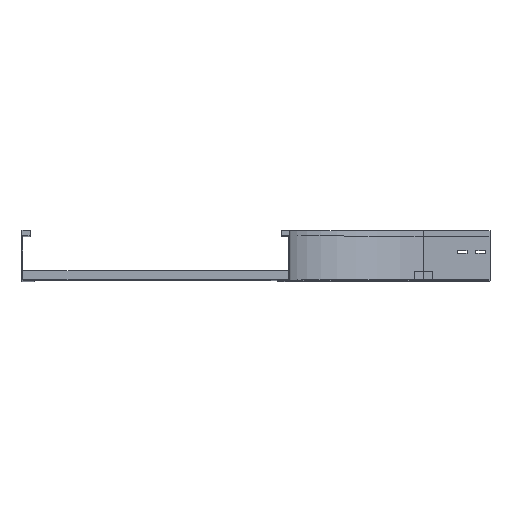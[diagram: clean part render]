
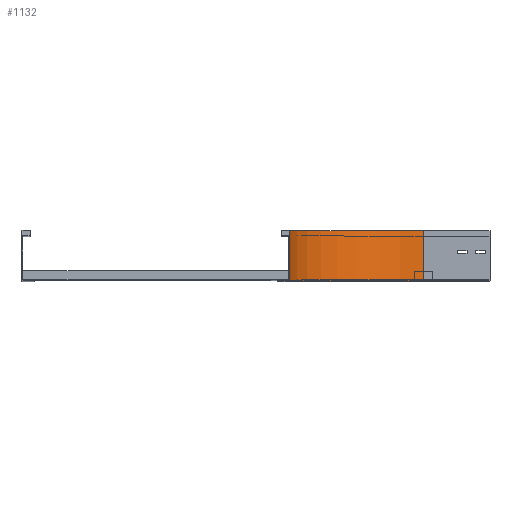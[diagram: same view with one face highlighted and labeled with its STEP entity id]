
A CAD part, top view. The second image highlights one B-rep face of the part: STEP entity #1132.
In plain terms, the highlighted cylindrical face has radius 300 mm (diameter 600 mm), a partial arc.
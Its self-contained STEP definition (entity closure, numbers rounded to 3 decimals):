
#57 = CARTESIAN_POINT ( 'NONE',  ( 0., 112.5, -150. ) ) ;
#108 = DIRECTION ( 'NONE',  ( 0., 1., 0. ) ) ;
#165 = EDGE_LOOP ( 'NONE', ( #1933, #1600, #2032, #1835 ) ) ;
#473 = CARTESIAN_POINT ( 'NONE',  ( 300., 112.5, -450. ) ) ;
#499 = EDGE_CURVE ( 'NONE', #3172, #3463, #886, .T. ) ;
#858 = DIRECTION ( 'NONE',  ( 0., -1., 0. ) ) ;
#886 = CIRCLE ( 'NONE', #3133, 300. ) ;
#924 = CARTESIAN_POINT ( 'NONE',  ( 300., 0., -450. ) ) ;
#1041 = FACE_OUTER_BOUND ( 'NONE', #165, .T. ) ;
#1104 = CIRCLE ( 'NONE', #3787, 300. ) ;
#1132 = ADVANCED_FACE ( 'NONE', ( #1041 ), #2559, .F. ) ;
#1242 = CARTESIAN_POINT ( 'NONE',  ( 0., 0., -150. ) ) ;
#1346 = DIRECTION ( 'NONE',  ( 0., -1., 0. ) ) ;
#1395 = CARTESIAN_POINT ( 'NONE',  ( 300., 0., -450. ) ) ;
#1600 = ORIENTED_EDGE ( 'NONE', *, *, #2863, .F. ) ;
#1831 = VECTOR ( 'NONE', #3063, 1000. ) ;
#1835 = ORIENTED_EDGE ( 'NONE', *, *, #3799, .T. ) ;
#1933 = ORIENTED_EDGE ( 'NONE', *, *, #2793, .F. ) ;
#2032 = ORIENTED_EDGE ( 'NONE', *, *, #499, .T. ) ;
#2141 = LINE ( 'NONE', #1242, #1831 ) ;
#2187 = AXIS2_PLACEMENT_3D ( 'NONE', #2616, #1346, #2304 ) ;
#2304 = DIRECTION ( 'NONE',  ( 0., 0., -1. ) ) ;
#2369 = DIRECTION ( 'NONE',  ( -1., 0., 0. ) ) ;
#2413 = LINE ( 'NONE', #924, #3389 ) ;
#2421 = DIRECTION ( 'NONE',  ( -1., 0., 0. ) ) ;
#2427 = VERTEX_POINT ( 'NONE', #57 ) ;
#2559 = CYLINDRICAL_SURFACE ( 'NONE', #2187, 300. ) ;
#2616 = CARTESIAN_POINT ( 'NONE',  ( 300., 0., -150. ) ) ;
#2689 = CARTESIAN_POINT ( 'NONE',  ( 0., 0., -150. ) ) ;
#2699 = VERTEX_POINT ( 'NONE', #473 ) ;
#2793 = EDGE_CURVE ( 'NONE', #2427, #2699, #1104, .T. ) ;
#2863 = EDGE_CURVE ( 'NONE', #3172, #2427, #2141, .T. ) ;
#3063 = DIRECTION ( 'NONE',  ( 0., 1., 0. ) ) ;
#3133 = AXIS2_PLACEMENT_3D ( 'NONE', #3840, #3627, #2369 ) ;
#3172 = VERTEX_POINT ( 'NONE', #2689 ) ;
#3389 = VECTOR ( 'NONE', #108, 1000. ) ;
#3463 = VERTEX_POINT ( 'NONE', #1395 ) ;
#3545 = CARTESIAN_POINT ( 'NONE',  ( 300., 112.5, -150. ) ) ;
#3627 = DIRECTION ( 'NONE',  ( 0., -1., 0. ) ) ;
#3787 = AXIS2_PLACEMENT_3D ( 'NONE', #3545, #858, #2421 ) ;
#3799 = EDGE_CURVE ( 'NONE', #3463, #2699, #2413, .T. ) ;
#3840 = CARTESIAN_POINT ( 'NONE',  ( 300., 0., -150. ) ) ;
